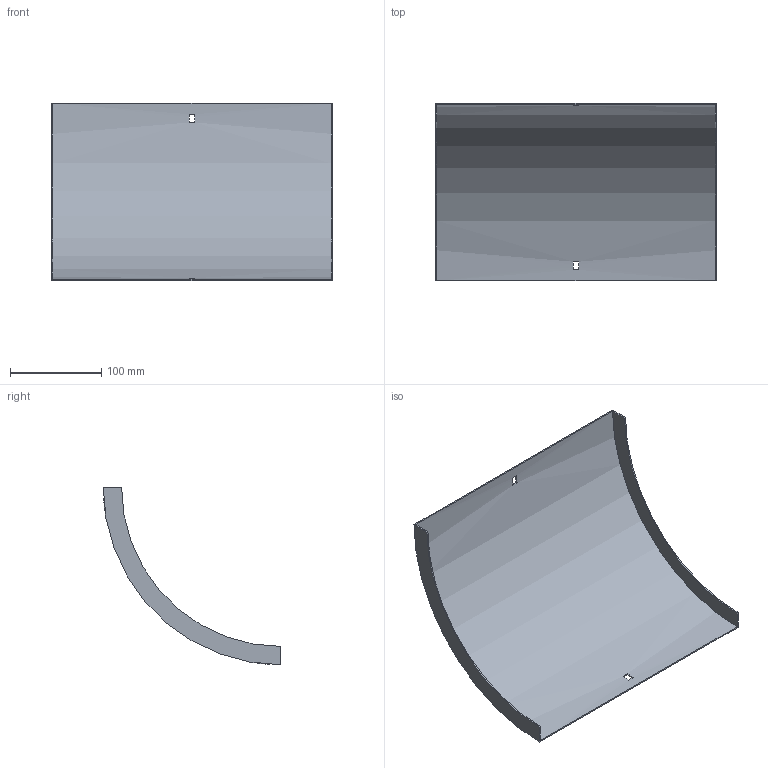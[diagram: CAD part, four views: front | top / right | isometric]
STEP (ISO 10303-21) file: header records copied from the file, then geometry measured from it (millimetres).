
FILE_DESCRIPTION (( 'STEP AP214' ), '1' );
FILE_NAME ('33N1I300.step', '2025-02-21T09:19:38', ( '' ), ( '' ), 'SwSTEP 2.0', 'SolidWorks 2023', '' );
FILE_SCHEMA (( 'AUTOMOTIVE_DESIGN' ));
Length unit declared in the file: millimetre
Products named in the file (1): 33N1I300
Bounding box: 307 x 194 x 194 mm (x, y, z)
Volume: 155587.1 mm3; surface area: 209398.4 mm2
Topology: 1 solids, 1 shells, 18 faces, 48 edges, 32 vertices
Faces by surface type: plane 14, cylinder 4
Entity records: 599 total; most frequent: DIRECTION 102, CARTESIAN_POINT 99, ORIENTED_EDGE 96, EDGE_CURVE 48, AXIS2_PLACEMENT_3D 35, VERTEX_POINT 32, VECTOR 32, LINE 32
